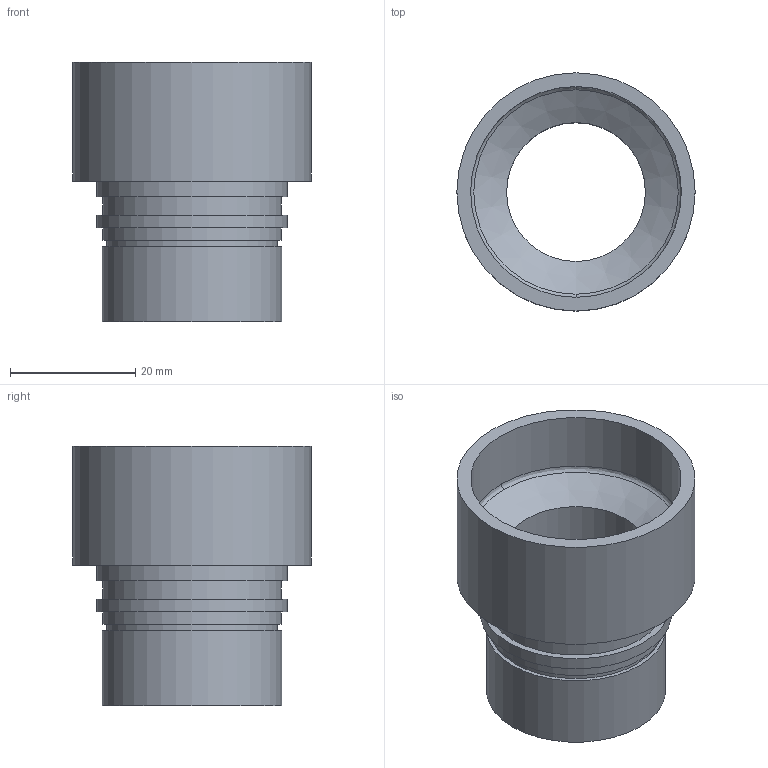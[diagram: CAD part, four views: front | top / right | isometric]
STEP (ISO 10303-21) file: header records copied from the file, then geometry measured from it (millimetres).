
FILE_DESCRIPTION (( 'STEP AP203' ), '1' );
FILE_NAME ('70-25.4R38.1-PH.STEP', '2013-09-19T10:49:24', ( '' ), ( '' ), 'SwSTEP 2.0', 'SolidWorks 2012', '' );
FILE_SCHEMA (( 'CONFIG_CONTROL_DESIGN' ));
Length unit declared in the file: millimetre
Products named in the file (1): 70-25.4R38.1-PH
Bounding box: 38.1 x 38.1 x 41.5 mm (x, y, z)
Volume: 13707.7 mm3; surface area: 9287.9 mm2
Topology: 1 solids, 1 shells, 22 faces, 38 edges, 25 vertices
Faces by surface type: cylinder 10, plane 9, bspline 2, cone 1
Full cylindrical faces by diameter (mm): 22.2 x1, 25.4 x1, 27.35 x1, 28.5 x2, 28.65 x1, 30.5 x2, 33.7 x1, 38.1 x1
Entity records: 567 total; most frequent: CARTESIAN_POINT 107, DIRECTION 88, ORIENTED_EDGE 50, AXIS2_PLACEMENT_3D 44, EDGE_LOOP 42, FACE_OUTER_BOUND 32, EDGE_CURVE 25, CIRCLE 23
